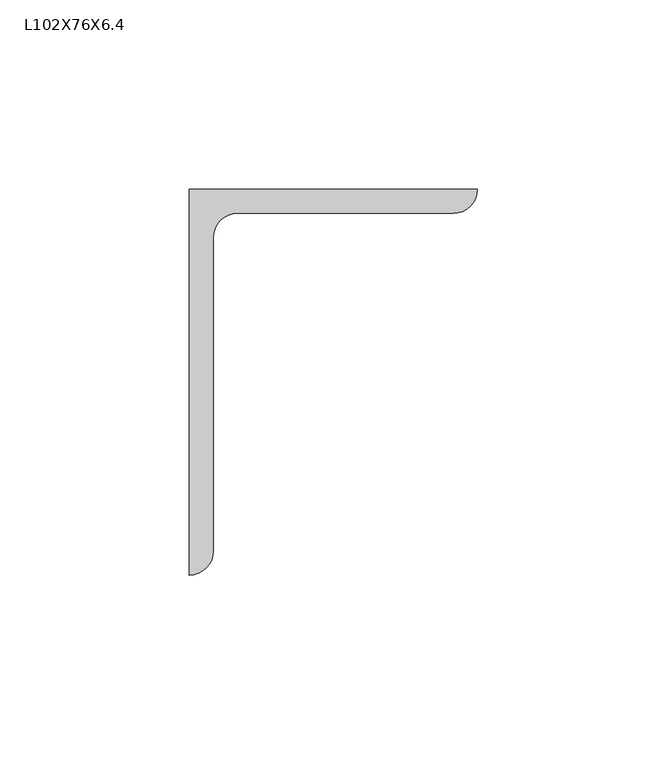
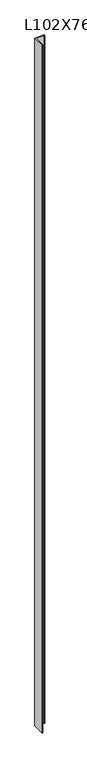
"""IFC4 building model written with IfcOpenShell, lengths in millimetres: column geometry, Уголок-Колонна : L102X76X6.4."""

from ifc_helpers import new_model, si_unit, point, frame_2d, origin, origin_with_axes, place, context, project, spatial, polyline, circle_curve, trimmed, segment, composite_curve, outline, extrude, source, transform, mapped, element, save


def l102x76x6_4_d7a43291(model_context):
    return source(origin(), model_context, "Body", "SweptSolid", [
        extrude(outline(composite_curve([segment(trimmed(circle_curve(frame_2d((51.4, 31.0)), 6.4), [point((57.8, 31.0))], [point((51.4, 24.6))], False, "CARTESIAN"), True, "CONTINUOUS"), segment(polyline([(51.4, 24.6), (-5.6, 24.6)]), True, "CONTINUOUS"), segment(trimmed(circle_curve(frame_2d((-5.6, 18.2)), 6.4), [point((-5.6, 24.6))], [point((-12.0, 18.2))], True, "CARTESIAN"), True, "CONTINUOUS"), segment(polyline([(-12.0, 18.2), (-12.0, -64.6)]), True, "CONTINUOUS"), segment(trimmed(circle_curve(frame_2d((-18.4, -64.6)), 6.4), [point((-12.0, -64.6))], [point((-18.4, -71.0))], False, "CARTESIAN"), True, "CONTINUOUS"), segment(polyline([(-18.4, -71.0), (-18.4, 31.0), (57.8, 31.0)]), True, "CONTINUOUS")], self_intersect=False)), origin_with_axes(), (0.0, 0.0, 1.0), 5825.0),
    ])


if __name__ == "__main__":
    model = new_model("IFC4")
    model_context = context("Model", 3, world=origin())
    ifc_project = project(units=[si_unit("LENGTHUNIT", "METRE", prefix="MILLI")], contexts=[model_context])
    site = spatial("IfcSite", under=ifc_project)
    building = spatial("IfcBuilding", under=site)
    placement = place(None, origin())
    l102x76x6_4_shape = l102x76x6_4_d7a43291(model_context)
    element("IfcColumn", 1, ObjectType="Уголок-Колонна : L102X76X6.4", at=placement, inside=building, context=model_context, shape_type="MappedRepresentation", body=[
        mapped(l102x76x6_4_shape, transform((0.0, 0.0, 0.0), x_axis=(1.0, 0.0, 0.0), y_axis=(0.0, 1.0, 0.0), z_axis=(0.0, 0.0, 1.0))),
    ])
    save(model, "model.ifc")
